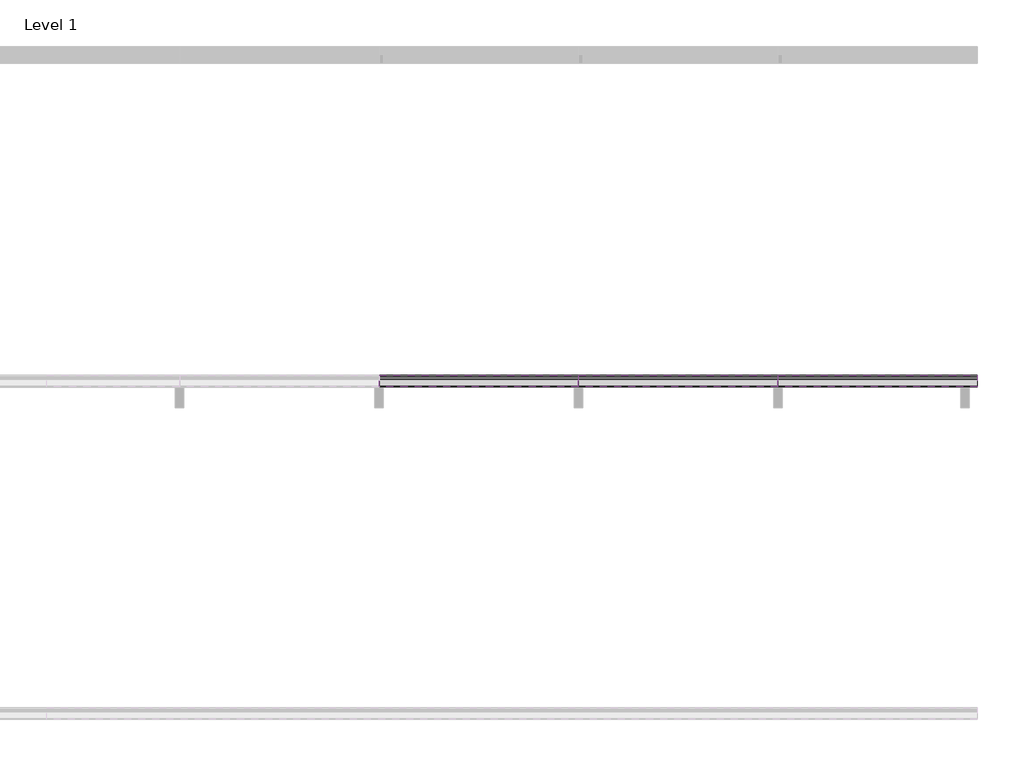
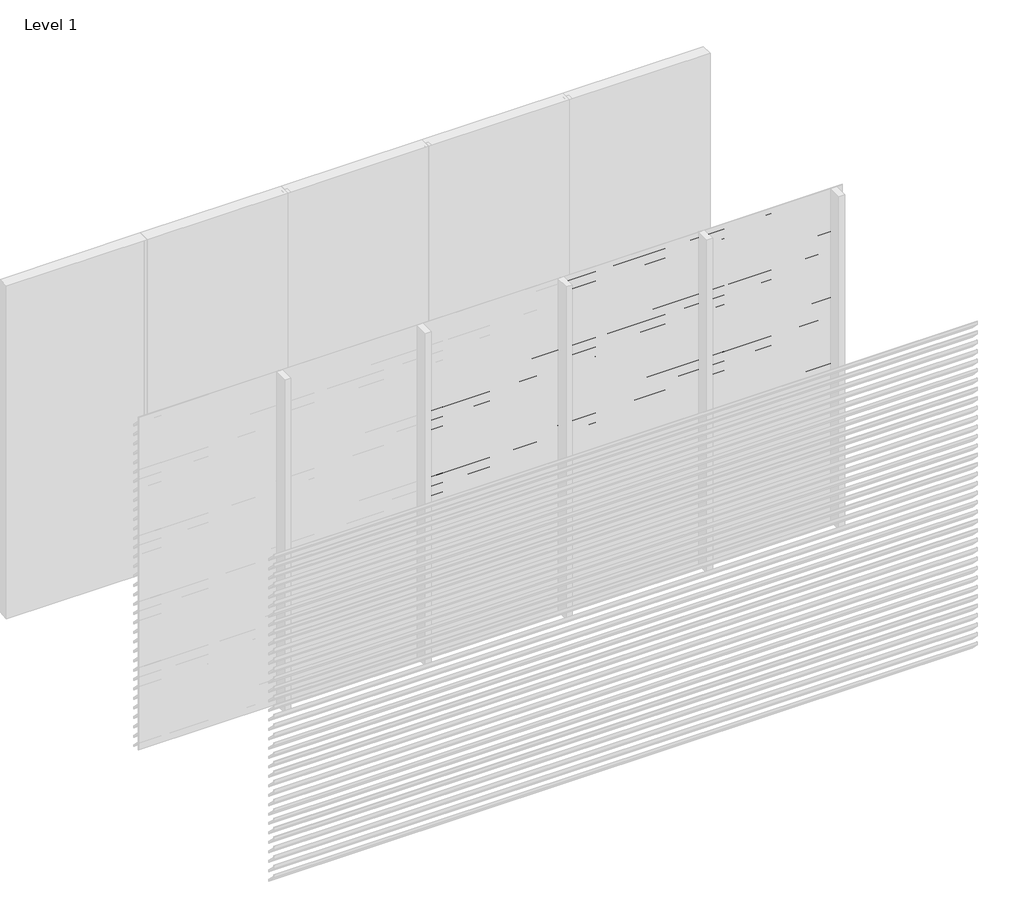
# One storey, part 3 of 10: 89 proxies.
"""IFC4 building model written with IfcOpenShell, lengths in millimetres."""

from ifc_helpers import new_model, si_unit, frame, origin, place, context, project, spatial, polyline, outline, extrude, element, save

model = new_model("IFC4")

# Units and contexts
model_context = context("Model", 3, world=origin())
ifc_project = project(units=[si_unit("LENGTHUNIT", "METRE", prefix="MILLI")], contexts=[model_context])

# Site, building, storey
site = spatial("IfcSite", under=ifc_project)
building = spatial("IfcBuilding", under=site)
storey = spatial("IfcBuildingStorey", under=building, Name="Level 1", Elevation=0.0)

# Proxies
placement = place(None, origin())
element("IfcBuildingElementProxy", 1, Name="Wall Sweeps", at=placement, inside=storey, context=model_context, shape_type="SweptSolid", body=[
    extrude(outline(polyline([(-17995.0, 2975.0), (-17995.0, 2962.0), (-17927.0, 2894.0), (-17927.0, 2876.0), (-17997.0, 2946.0), (-17997.0, 2975.0), (-17995.0, 2975.0)])), frame((4799.9999998, 0.0, 0.0), z_axis=(1.0, 0.0, 0.0), x_axis=(0.0, 1.0, 0.0)), (0.0, 0.0, 1.0), 1200.0000002),
])
element("IfcBuildingElementProxy", 2, Name="Wall Sweeps", at=placement, inside=storey, context=model_context, shape_type="SweptSolid", body=[
    extrude(outline(polyline([(-17995.0, 2890.0), (-17995.0, 2877.0), (-17927.0, 2809.0), (-17927.0, 2791.0), (-17997.0, 2861.0), (-17997.0, 2890.0), (-17995.0, 2890.0)])), frame((4799.9999998, 0.0, 0.0), z_axis=(1.0, 0.0, 0.0), x_axis=(0.0, 1.0, 0.0)), (0.0, 0.0, 1.0), 1200.0000002),
])
element("IfcBuildingElementProxy", 3, Name="Wall Sweeps", at=placement, inside=storey, context=model_context, shape_type="SweptSolid", body=[
    extrude(outline(polyline([(-17995.0, 2805.0), (-17995.0, 2792.0), (-17927.0, 2724.0), (-17927.0, 2706.0), (-17997.0, 2776.0), (-17997.0, 2805.0), (-17995.0, 2805.0)])), frame((4799.9999998, 0.0, 0.0), z_axis=(1.0, 0.0, 0.0), x_axis=(0.0, 1.0, 0.0)), (0.0, 0.0, 1.0), 1200.0000002),
])
element("IfcBuildingElementProxy", 4, Name="Wall Sweeps", at=placement, inside=storey, context=model_context, shape_type="SweptSolid", body=[
    extrude(outline(polyline([(-17995.0, 2720.0), (-17995.0, 2707.0), (-17927.0, 2639.0), (-17927.0, 2621.0), (-17997.0, 2691.0), (-17997.0, 2720.0), (-17995.0, 2720.0)])), frame((4799.9999998, 0.0, 0.0), z_axis=(1.0, 0.0, 0.0), x_axis=(0.0, 1.0, 0.0)), (0.0, 0.0, 1.0), 1200.0000002),
])
element("IfcBuildingElementProxy", 5, Name="Wall Sweeps", at=placement, inside=storey, context=model_context, shape_type="SweptSolid", body=[
    extrude(outline(polyline([(-17995.0, 2635.0), (-17995.0, 2622.0), (-17927.0, 2554.0), (-17927.0, 2536.0), (-17997.0, 2606.0), (-17997.0, 2635.0), (-17995.0, 2635.0)])), frame((4799.9999998, 0.0, 0.0), z_axis=(1.0, 0.0, 0.0), x_axis=(0.0, 1.0, 0.0)), (0.0, 0.0, 1.0), 1200.0000002),
])
element("IfcBuildingElementProxy", 6, Name="Wall Sweeps", at=placement, inside=storey, context=model_context, shape_type="SweptSolid", body=[
    extrude(outline(polyline([(-17995.0, 2550.0), (-17995.0, 2537.0), (-17927.0, 2469.0), (-17927.0, 2451.0), (-17997.0, 2521.0), (-17997.0, 2550.0), (-17995.0, 2550.0)])), frame((4799.9999998, 0.0, 0.0), z_axis=(1.0, 0.0, 0.0), x_axis=(0.0, 1.0, 0.0)), (0.0, 0.0, 1.0), 1200.0000002),
])
element("IfcBuildingElementProxy", 7, Name="Wall Sweeps", at=placement, inside=storey, context=model_context, shape_type="SweptSolid", body=[
    extrude(outline(polyline([(-17995.0, 2465.0), (-17995.0, 2452.0), (-17927.0, 2384.0), (-17927.0, 2366.0), (-17997.0, 2436.0), (-17997.0, 2465.0), (-17995.0, 2465.0)])), frame((4799.9999998, 0.0, 0.0), z_axis=(1.0, 0.0, 0.0), x_axis=(0.0, 1.0, 0.0)), (0.0, 0.0, 1.0), 1200.0000002),
])
element("IfcBuildingElementProxy", 8, Name="Wall Sweeps", at=placement, inside=storey, context=model_context, shape_type="SweptSolid", body=[
    extrude(outline(polyline([(-17995.0, 2380.0), (-17995.0, 2367.0), (-17927.0, 2299.0), (-17927.0, 2281.0), (-17997.0, 2351.0), (-17997.0, 2380.0), (-17995.0, 2380.0)])), frame((4799.9999998, 0.0, 0.0), z_axis=(1.0, 0.0, 0.0), x_axis=(0.0, 1.0, 0.0)), (0.0, 0.0, 1.0), 1200.0000002),
])
element("IfcBuildingElementProxy", 9, Name="Wall Sweeps", at=placement, inside=storey, context=model_context, shape_type="SweptSolid", body=[
    extrude(outline(polyline([(-17995.0, 2295.0), (-17995.0, 2282.0), (-17927.0, 2214.0), (-17927.0, 2196.0), (-17997.0, 2266.0), (-17997.0, 2295.0), (-17995.0, 2295.0)])), frame((4799.9999998, 0.0, 0.0), z_axis=(1.0, 0.0, 0.0), x_axis=(0.0, 1.0, 0.0)), (0.0, 0.0, 1.0), 1200.0000002),
])
element("IfcBuildingElementProxy", 10, Name="Wall Sweeps", at=placement, inside=storey, context=model_context, shape_type="SweptSolid", body=[
    extrude(outline(polyline([(-17995.0, 2210.0), (-17995.0, 2197.0), (-17927.0, 2129.0), (-17927.0, 2111.0), (-17997.0, 2181.0), (-17997.0, 2210.0), (-17995.0, 2210.0)])), frame((4799.9999998, 0.0, 0.0), z_axis=(1.0, 0.0, 0.0), x_axis=(0.0, 1.0, 0.0)), (0.0, 0.0, 1.0), 1200.0000002),
])
element("IfcBuildingElementProxy", 11, Name="Wall Sweeps", at=placement, inside=storey, context=model_context, shape_type="SweptSolid", body=[
    extrude(outline(polyline([(-17995.0, 2125.0), (-17995.0, 2112.0), (-17927.0, 2044.0), (-17927.0, 2026.0), (-17997.0, 2096.0), (-17997.0, 2125.0), (-17995.0, 2125.0)])), frame((4799.9999998, 0.0, 0.0), z_axis=(1.0, 0.0, 0.0), x_axis=(0.0, 1.0, 0.0)), (0.0, 0.0, 1.0), 1200.0000002),
])
element("IfcBuildingElementProxy", 12, Name="Wall Sweeps", at=placement, inside=storey, context=model_context, shape_type="SweptSolid", body=[
    extrude(outline(polyline([(-17995.0, 2040.0), (-17995.0, 2027.0), (-17927.0, 1959.0), (-17927.0, 1941.0), (-17997.0, 2011.0), (-17997.0, 2040.0), (-17995.0, 2040.0)])), frame((4799.9999998, 0.0, 0.0), z_axis=(1.0, 0.0, 0.0), x_axis=(0.0, 1.0, 0.0)), (0.0, 0.0, 1.0), 1200.0000002),
])
element("IfcBuildingElementProxy", 13, Name="Wall Sweeps", at=placement, inside=storey, context=model_context, shape_type="SweptSolid", body=[
    extrude(outline(polyline([(-17995.0, 1955.0), (-17995.0, 1942.0), (-17927.0, 1874.0), (-17927.0, 1856.0), (-17997.0, 1926.0), (-17997.0, 1955.0), (-17995.0, 1955.0)])), frame((4799.9999998, 0.0, 0.0), z_axis=(1.0, 0.0, 0.0), x_axis=(0.0, 1.0, 0.0)), (0.0, 0.0, 1.0), 1200.0000002),
])
element("IfcBuildingElementProxy", 14, Name="Wall Sweeps", at=placement, inside=storey, context=model_context, shape_type="SweptSolid", body=[
    extrude(outline(polyline([(-17995.0, 1870.0), (-17995.0, 1857.0), (-17927.0, 1789.0), (-17927.0, 1771.0), (-17997.0, 1841.0), (-17997.0, 1870.0), (-17995.0, 1870.0)])), frame((4799.9999998, 0.0, 0.0), z_axis=(1.0, 0.0, 0.0), x_axis=(0.0, 1.0, 0.0)), (0.0, 0.0, 1.0), 1200.0000002),
])
element("IfcBuildingElementProxy", 15, Name="Wall Sweeps", at=placement, inside=storey, context=model_context, shape_type="SweptSolid", body=[
    extrude(outline(polyline([(-17995.0, 1785.0), (-17995.0, 1772.0), (-17927.0, 1704.0), (-17927.0, 1686.0), (-17997.0, 1756.0), (-17997.0, 1785.0), (-17995.0, 1785.0)])), frame((4799.9999998, 0.0, 0.0), z_axis=(1.0, 0.0, 0.0), x_axis=(0.0, 1.0, 0.0)), (0.0, 0.0, 1.0), 1200.0000002),
])
element("IfcBuildingElementProxy", 16, Name="Wall Sweeps", at=placement, inside=storey, context=model_context, shape_type="SweptSolid", body=[
    extrude(outline(polyline([(-17995.0, 1700.0), (-17995.0, 1687.0), (-17927.0, 1619.0), (-17927.0, 1601.0), (-17997.0, 1671.0), (-17997.0, 1700.0), (-17995.0, 1700.0)])), frame((4799.9999998, 0.0, 0.0), z_axis=(1.0, 0.0, 0.0), x_axis=(0.0, 1.0, 0.0)), (0.0, 0.0, 1.0), 1200.0000002),
])
element("IfcBuildingElementProxy", 17, Name="Wall Sweeps", at=placement, inside=storey, context=model_context, shape_type="SweptSolid", body=[
    extrude(outline(polyline([(-17995.0, 1615.0), (-17995.0, 1602.0), (-17927.0, 1534.0), (-17927.0, 1516.0), (-17997.0, 1586.0), (-17997.0, 1615.0), (-17995.0, 1615.0)])), frame((4799.9999998, 0.0, 0.0), z_axis=(1.0, 0.0, 0.0), x_axis=(0.0, 1.0, 0.0)), (0.0, 0.0, 1.0), 1200.0000002),
])
element("IfcBuildingElementProxy", 18, Name="Wall Sweeps", at=placement, inside=storey, context=model_context, shape_type="SweptSolid", body=[
    extrude(outline(polyline([(-17995.0, 1530.0), (-17995.0, 1517.0), (-17927.0, 1449.0), (-17927.0, 1431.0), (-17997.0, 1501.0), (-17997.0, 1530.0), (-17995.0, 1530.0)])), frame((4799.9999998, 0.0, 0.0), z_axis=(1.0, 0.0, 0.0), x_axis=(0.0, 1.0, 0.0)), (0.0, 0.0, 1.0), 1200.0000002),
])
element("IfcBuildingElementProxy", 19, Name="Wall Sweeps", at=placement, inside=storey, context=model_context, shape_type="SweptSolid", body=[
    extrude(outline(polyline([(-17995.0, 1445.0), (-17995.0, 1432.0), (-17927.0, 1364.0), (-17927.0, 1346.0), (-17997.0, 1416.0), (-17997.0, 1445.0), (-17995.0, 1445.0)])), frame((4799.9999998, 0.0, 0.0), z_axis=(1.0, 0.0, 0.0), x_axis=(0.0, 1.0, 0.0)), (0.0, 0.0, 1.0), 1200.0000002),
])
element("IfcBuildingElementProxy", 20, Name="Wall Sweeps", at=placement, inside=storey, context=model_context, shape_type="SweptSolid", body=[
    extrude(outline(polyline([(-17995.0, 1360.0), (-17995.0, 1347.0), (-17927.0, 1279.0), (-17927.0, 1261.0), (-17997.0, 1331.0), (-17997.0, 1360.0), (-17995.0, 1360.0)])), frame((4799.9999998, 0.0, 0.0), z_axis=(1.0, 0.0, 0.0), x_axis=(0.0, 1.0, 0.0)), (0.0, 0.0, 1.0), 1200.0000002),
])
element("IfcBuildingElementProxy", 21, Name="Wall Sweeps", at=placement, inside=storey, context=model_context, shape_type="SweptSolid", body=[
    extrude(outline(polyline([(-17995.0, 1275.0), (-17995.0, 1262.0), (-17927.0, 1194.0), (-17927.0, 1176.0), (-17997.0, 1246.0), (-17997.0, 1275.0), (-17995.0, 1275.0)])), frame((4799.9999998, 0.0, 0.0), z_axis=(1.0, 0.0, 0.0), x_axis=(0.0, 1.0, 0.0)), (0.0, 0.0, 1.0), 1200.0000002),
])
element("IfcBuildingElementProxy", 22, Name="Wall Sweeps", at=placement, inside=storey, context=model_context, shape_type="SweptSolid", body=[
    extrude(outline(polyline([(-17995.0, 1190.0), (-17995.0, 1177.0), (-17927.0, 1109.0), (-17927.0, 1091.0), (-17997.0, 1161.0), (-17997.0, 1190.0), (-17995.0, 1190.0)])), frame((4799.9999998, 0.0, 0.0), z_axis=(1.0, 0.0, 0.0), x_axis=(0.0, 1.0, 0.0)), (0.0, 0.0, 1.0), 1200.0000002),
])
element("IfcBuildingElementProxy", 23, Name="Wall Sweeps", at=placement, inside=storey, context=model_context, shape_type="SweptSolid", body=[
    extrude(outline(polyline([(-17995.0, 1105.0), (-17995.0, 1092.0), (-17927.0, 1024.0), (-17927.0, 1006.0), (-17997.0, 1076.0), (-17997.0, 1105.0), (-17995.0, 1105.0)])), frame((4799.9999998, 0.0, 0.0), z_axis=(1.0, 0.0, 0.0), x_axis=(0.0, 1.0, 0.0)), (0.0, 0.0, 1.0), 1200.0000002),
])
element("IfcBuildingElementProxy", 24, Name="Wall Sweeps", at=placement, inside=storey, context=model_context, shape_type="SweptSolid", body=[
    extrude(outline(polyline([(-17995.0, 1020.0), (-17995.0, 1007.0), (-17927.0, 939.0), (-17927.0, 921.0), (-17997.0, 991.0), (-17997.0, 1020.0), (-17995.0, 1020.0)])), frame((4799.9999998, 0.0, 0.0), z_axis=(1.0, 0.0, 0.0), x_axis=(0.0, 1.0, 0.0)), (0.0, 0.0, 1.0), 1200.0000002),
])
element("IfcBuildingElementProxy", 25, Name="Wall Sweeps", at=placement, inside=storey, context=model_context, shape_type="SweptSolid", body=[
    extrude(outline(polyline([(-17995.0, 935.0), (-17995.0, 922.0), (-17927.0, 854.0), (-17927.0, 836.0), (-17997.0, 906.0), (-17997.0, 935.0), (-17995.0, 935.0)])), frame((4799.9999998, 0.0, 0.0), z_axis=(1.0, 0.0, 0.0), x_axis=(0.0, 1.0, 0.0)), (0.0, 0.0, 1.0), 1200.0000002),
])
element("IfcBuildingElementProxy", 26, Name="Wall Sweeps", at=placement, inside=storey, context=model_context, shape_type="SweptSolid", body=[
    extrude(outline(polyline([(-17995.0, 2975.0), (-17995.0, 2962.0), (-17927.0, 2894.0), (-17927.0, 2876.0), (-17997.0, 2946.0), (-17997.0, 2975.0), (-17995.0, 2975.0)])), frame((3599.9999999, 0.0, 0.0), z_axis=(1.0, 0.0, 0.0), x_axis=(0.0, 1.0, 0.0)), (0.0, 0.0, 1.0), 1199.9999999),
])
element("IfcBuildingElementProxy", 27, Name="Wall Sweeps", at=placement, inside=storey, context=model_context, shape_type="SweptSolid", body=[
    extrude(outline(polyline([(-17995.0, 2890.0), (-17995.0, 2877.0), (-17927.0, 2809.0), (-17927.0, 2791.0), (-17997.0, 2861.0), (-17997.0, 2890.0), (-17995.0, 2890.0)])), frame((3599.9999999, 0.0, 0.0), z_axis=(1.0, 0.0, 0.0), x_axis=(0.0, 1.0, 0.0)), (0.0, 0.0, 1.0), 1199.9999999),
])
element("IfcBuildingElementProxy", 28, Name="Wall Sweeps", at=placement, inside=storey, context=model_context, shape_type="SweptSolid", body=[
    extrude(outline(polyline([(-17995.0, 2805.0), (-17995.0, 2792.0), (-17927.0, 2724.0), (-17927.0, 2706.0), (-17997.0, 2776.0), (-17997.0, 2805.0), (-17995.0, 2805.0)])), frame((3599.9999999, 0.0, 0.0), z_axis=(1.0, 0.0, 0.0), x_axis=(0.0, 1.0, 0.0)), (0.0, 0.0, 1.0), 1199.9999999),
])
element("IfcBuildingElementProxy", 29, Name="Wall Sweeps", at=placement, inside=storey, context=model_context, shape_type="SweptSolid", body=[
    extrude(outline(polyline([(-17995.0, 2720.0), (-17995.0, 2707.0), (-17927.0, 2639.0), (-17927.0, 2621.0), (-17997.0, 2691.0), (-17997.0, 2720.0), (-17995.0, 2720.0)])), frame((3599.9999999, 0.0, 0.0), z_axis=(1.0, 0.0, 0.0), x_axis=(0.0, 1.0, 0.0)), (0.0, 0.0, 1.0), 1199.9999999),
])
element("IfcBuildingElementProxy", 30, Name="Wall Sweeps", at=placement, inside=storey, context=model_context, shape_type="SweptSolid", body=[
    extrude(outline(polyline([(-17995.0, 2635.0), (-17995.0, 2622.0), (-17927.0, 2554.0), (-17927.0, 2536.0), (-17997.0, 2606.0), (-17997.0, 2635.0), (-17995.0, 2635.0)])), frame((3599.9999999, 0.0, 0.0), z_axis=(1.0, 0.0, 0.0), x_axis=(0.0, 1.0, 0.0)), (0.0, 0.0, 1.0), 1199.9999999),
])
element("IfcBuildingElementProxy", 31, Name="Wall Sweeps", at=placement, inside=storey, context=model_context, shape_type="SweptSolid", body=[
    extrude(outline(polyline([(-17995.0, 2550.0), (-17995.0, 2537.0), (-17927.0, 2469.0), (-17927.0, 2451.0), (-17997.0, 2521.0), (-17997.0, 2550.0), (-17995.0, 2550.0)])), frame((3599.9999999, 0.0, 0.0), z_axis=(1.0, 0.0, 0.0), x_axis=(0.0, 1.0, 0.0)), (0.0, 0.0, 1.0), 1199.9999999),
])
element("IfcBuildingElementProxy", 32, Name="Wall Sweeps", at=placement, inside=storey, context=model_context, shape_type="SweptSolid", body=[
    extrude(outline(polyline([(-17995.0, 2465.0), (-17995.0, 2452.0), (-17927.0, 2384.0), (-17927.0, 2366.0), (-17997.0, 2436.0), (-17997.0, 2465.0), (-17995.0, 2465.0)])), frame((3599.9999999, 0.0, 0.0), z_axis=(1.0, 0.0, 0.0), x_axis=(0.0, 1.0, 0.0)), (0.0, 0.0, 1.0), 1199.9999999),
])
element("IfcBuildingElementProxy", 33, Name="Wall Sweeps", at=placement, inside=storey, context=model_context, shape_type="SweptSolid", body=[
    extrude(outline(polyline([(-17995.0, 2380.0), (-17995.0, 2367.0), (-17927.0, 2299.0), (-17927.0, 2281.0), (-17997.0, 2351.0), (-17997.0, 2380.0), (-17995.0, 2380.0)])), frame((3599.9999999, 0.0, 0.0), z_axis=(1.0, 0.0, 0.0), x_axis=(0.0, 1.0, 0.0)), (0.0, 0.0, 1.0), 1199.9999999),
])
element("IfcBuildingElementProxy", 34, Name="Wall Sweeps", at=placement, inside=storey, context=model_context, shape_type="SweptSolid", body=[
    extrude(outline(polyline([(-17995.0, 2295.0), (-17995.0, 2282.0), (-17927.0, 2214.0), (-17927.0, 2196.0), (-17997.0, 2266.0), (-17997.0, 2295.0), (-17995.0, 2295.0)])), frame((3599.9999999, 0.0, 0.0), z_axis=(1.0, 0.0, 0.0), x_axis=(0.0, 1.0, 0.0)), (0.0, 0.0, 1.0), 1199.9999999),
])
element("IfcBuildingElementProxy", 35, Name="Wall Sweeps", at=placement, inside=storey, context=model_context, shape_type="SweptSolid", body=[
    extrude(outline(polyline([(-17995.0, 2210.0), (-17995.0, 2197.0), (-17927.0, 2129.0), (-17927.0, 2111.0), (-17997.0, 2181.0), (-17997.0, 2210.0), (-17995.0, 2210.0)])), frame((3599.9999999, 0.0, 0.0), z_axis=(1.0, 0.0, 0.0), x_axis=(0.0, 1.0, 0.0)), (0.0, 0.0, 1.0), 1199.9999999),
])
element("IfcBuildingElementProxy", 36, Name="Wall Sweeps", at=placement, inside=storey, context=model_context, shape_type="SweptSolid", body=[
    extrude(outline(polyline([(-17995.0, 2125.0), (-17995.0, 2112.0), (-17927.0, 2044.0), (-17927.0, 2026.0), (-17997.0, 2096.0), (-17997.0, 2125.0), (-17995.0, 2125.0)])), frame((3599.9999999, 0.0, 0.0), z_axis=(1.0, 0.0, 0.0), x_axis=(0.0, 1.0, 0.0)), (0.0, 0.0, 1.0), 1199.9999999),
])
element("IfcBuildingElementProxy", 37, Name="Wall Sweeps", at=placement, inside=storey, context=model_context, shape_type="SweptSolid", body=[
    extrude(outline(polyline([(-17995.0, 2040.0), (-17995.0, 2027.0), (-17927.0, 1959.0), (-17927.0, 1941.0), (-17997.0, 2011.0), (-17997.0, 2040.0), (-17995.0, 2040.0)])), frame((3599.9999999, 0.0, 0.0), z_axis=(1.0, 0.0, 0.0), x_axis=(0.0, 1.0, 0.0)), (0.0, 0.0, 1.0), 1199.9999999),
])
element("IfcBuildingElementProxy", 38, Name="Wall Sweeps", at=placement, inside=storey, context=model_context, shape_type="SweptSolid", body=[
    extrude(outline(polyline([(-17995.0, 1955.0), (-17995.0, 1942.0), (-17927.0, 1874.0), (-17927.0, 1856.0), (-17997.0, 1926.0), (-17997.0, 1955.0), (-17995.0, 1955.0)])), frame((3599.9999999, 0.0, 0.0), z_axis=(1.0, 0.0, 0.0), x_axis=(0.0, 1.0, 0.0)), (0.0, 0.0, 1.0), 1199.9999999),
])
element("IfcBuildingElementProxy", 39, Name="Wall Sweeps", at=placement, inside=storey, context=model_context, shape_type="SweptSolid", body=[
    extrude(outline(polyline([(-17995.0, 1870.0), (-17995.0, 1857.0), (-17927.0, 1789.0), (-17927.0, 1771.0), (-17997.0, 1841.0), (-17997.0, 1870.0), (-17995.0, 1870.0)])), frame((3599.9999999, 0.0, 0.0), z_axis=(1.0, 0.0, 0.0), x_axis=(0.0, 1.0, 0.0)), (0.0, 0.0, 1.0), 1199.9999999),
])
element("IfcBuildingElementProxy", 40, Name="Wall Sweeps", at=placement, inside=storey, context=model_context, shape_type="SweptSolid", body=[
    extrude(outline(polyline([(-17995.0, 1785.0), (-17995.0, 1772.0), (-17927.0, 1704.0), (-17927.0, 1686.0), (-17997.0, 1756.0), (-17997.0, 1785.0), (-17995.0, 1785.0)])), frame((3599.9999999, 0.0, 0.0), z_axis=(1.0, 0.0, 0.0), x_axis=(0.0, 1.0, 0.0)), (0.0, 0.0, 1.0), 1199.9999999),
])
element("IfcBuildingElementProxy", 41, Name="Wall Sweeps", at=placement, inside=storey, context=model_context, shape_type="SweptSolid", body=[
    extrude(outline(polyline([(-17995.0, 1700.0), (-17995.0, 1687.0), (-17927.0, 1619.0), (-17927.0, 1601.0), (-17997.0, 1671.0), (-17997.0, 1700.0), (-17995.0, 1700.0)])), frame((3599.9999999, 0.0, 0.0), z_axis=(1.0, 0.0, 0.0), x_axis=(0.0, 1.0, 0.0)), (0.0, 0.0, 1.0), 1199.9999999),
])
element("IfcBuildingElementProxy", 42, Name="Wall Sweeps", at=placement, inside=storey, context=model_context, shape_type="SweptSolid", body=[
    extrude(outline(polyline([(-17995.0, 1615.0), (-17995.0, 1602.0), (-17927.0, 1534.0), (-17927.0, 1516.0), (-17997.0, 1586.0), (-17997.0, 1615.0), (-17995.0, 1615.0)])), frame((3599.9999999, 0.0, 0.0), z_axis=(1.0, 0.0, 0.0), x_axis=(0.0, 1.0, 0.0)), (0.0, 0.0, 1.0), 1199.9999999),
])
element("IfcBuildingElementProxy", 43, Name="Wall Sweeps", at=placement, inside=storey, context=model_context, shape_type="SweptSolid", body=[
    extrude(outline(polyline([(-17995.0, 1530.0), (-17995.0, 1517.0), (-17927.0, 1449.0), (-17927.0, 1431.0), (-17997.0, 1501.0), (-17997.0, 1530.0), (-17995.0, 1530.0)])), frame((3599.9999999, 0.0, 0.0), z_axis=(1.0, 0.0, 0.0), x_axis=(0.0, 1.0, 0.0)), (0.0, 0.0, 1.0), 1199.9999999),
])
element("IfcBuildingElementProxy", 44, Name="Wall Sweeps", at=placement, inside=storey, context=model_context, shape_type="SweptSolid", body=[
    extrude(outline(polyline([(-17995.0, 1445.0), (-17995.0, 1432.0), (-17927.0, 1364.0), (-17927.0, 1346.0), (-17997.0, 1416.0), (-17997.0, 1445.0), (-17995.0, 1445.0)])), frame((3599.9999999, 0.0, 0.0), z_axis=(1.0, 0.0, 0.0), x_axis=(0.0, 1.0, 0.0)), (0.0, 0.0, 1.0), 1199.9999999),
])
element("IfcBuildingElementProxy", 45, Name="Wall Sweeps", at=placement, inside=storey, context=model_context, shape_type="SweptSolid", body=[
    extrude(outline(polyline([(-17995.0, 1360.0), (-17995.0, 1347.0), (-17927.0, 1279.0), (-17927.0, 1261.0), (-17997.0, 1331.0), (-17997.0, 1360.0), (-17995.0, 1360.0)])), frame((3599.9999999, 0.0, 0.0), z_axis=(1.0, 0.0, 0.0), x_axis=(0.0, 1.0, 0.0)), (0.0, 0.0, 1.0), 1199.9999999),
])
element("IfcBuildingElementProxy", 46, Name="Wall Sweeps", at=placement, inside=storey, context=model_context, shape_type="SweptSolid", body=[
    extrude(outline(polyline([(-17995.0, 1275.0), (-17995.0, 1262.0), (-17927.0, 1194.0), (-17927.0, 1176.0), (-17997.0, 1246.0), (-17997.0, 1275.0), (-17995.0, 1275.0)])), frame((3599.9999999, 0.0, 0.0), z_axis=(1.0, 0.0, 0.0), x_axis=(0.0, 1.0, 0.0)), (0.0, 0.0, 1.0), 1199.9999999),
])
element("IfcBuildingElementProxy", 47, Name="Wall Sweeps", at=placement, inside=storey, context=model_context, shape_type="SweptSolid", body=[
    extrude(outline(polyline([(-17995.0, 1190.0), (-17995.0, 1177.0), (-17927.0, 1109.0), (-17927.0, 1091.0), (-17997.0, 1161.0), (-17997.0, 1190.0), (-17995.0, 1190.0)])), frame((3599.9999999, 0.0, 0.0), z_axis=(1.0, 0.0, 0.0), x_axis=(0.0, 1.0, 0.0)), (0.0, 0.0, 1.0), 1199.9999999),
])
element("IfcBuildingElementProxy", 48, Name="Wall Sweeps", at=placement, inside=storey, context=model_context, shape_type="SweptSolid", body=[
    extrude(outline(polyline([(-17995.0, 1105.0), (-17995.0, 1092.0), (-17927.0, 1024.0), (-17927.0, 1006.0), (-17997.0, 1076.0), (-17997.0, 1105.0), (-17995.0, 1105.0)])), frame((3599.9999999, 0.0, 0.0), z_axis=(1.0, 0.0, 0.0), x_axis=(0.0, 1.0, 0.0)), (0.0, 0.0, 1.0), 1199.9999999),
])
element("IfcBuildingElementProxy", 49, Name="Wall Sweeps", at=placement, inside=storey, context=model_context, shape_type="SweptSolid", body=[
    extrude(outline(polyline([(-17995.0, 1020.0), (-17995.0, 1007.0), (-17927.0, 939.0), (-17927.0, 921.0), (-17997.0, 991.0), (-17997.0, 1020.0), (-17995.0, 1020.0)])), frame((3599.9999999, 0.0, 0.0), z_axis=(1.0, 0.0, 0.0), x_axis=(0.0, 1.0, 0.0)), (0.0, 0.0, 1.0), 1199.9999999),
])
element("IfcBuildingElementProxy", 50, Name="Wall Sweeps", at=placement, inside=storey, context=model_context, shape_type="SweptSolid", body=[
    extrude(outline(polyline([(-17995.0, 935.0), (-17995.0, 922.0), (-17927.0, 854.0), (-17927.0, 836.0), (-17997.0, 906.0), (-17997.0, 935.0), (-17995.0, 935.0)])), frame((3599.9999999, 0.0, 0.0), z_axis=(1.0, 0.0, 0.0), x_axis=(0.0, 1.0, 0.0)), (0.0, 0.0, 1.0), 1199.9999999),
])
element("IfcBuildingElementProxy", 51, Name="Wall Sweeps", at=placement, inside=storey, context=model_context, shape_type="SweptSolid", body=[
    extrude(outline(polyline([(-17995.0, 850.0), (-17995.0, 837.0), (-17927.0, 769.0), (-17927.0, 751.0), (-17997.0, 821.0), (-17997.0, 850.0), (-17995.0, 850.0)])), frame((3599.9999999, 0.0, 0.0), z_axis=(1.0, 0.0, 0.0), x_axis=(0.0, 1.0, 0.0)), (0.0, 0.0, 1.0), 1199.9999999),
])
element("IfcBuildingElementProxy", 52, Name="Wall Sweeps", at=placement, inside=storey, context=model_context, shape_type="SweptSolid", body=[
    extrude(outline(polyline([(-17995.0, 765.0), (-17995.0, 752.0), (-17927.0, 684.0), (-17927.0, 666.0), (-17997.0, 736.0), (-17997.0, 765.0), (-17995.0, 765.0)])), frame((3599.9999999, 0.0, 0.0), z_axis=(1.0, 0.0, 0.0), x_axis=(0.0, 1.0, 0.0)), (0.0, 0.0, 1.0), 1199.9999999),
])
element("IfcBuildingElementProxy", 53, Name="Wall Sweeps", at=placement, inside=storey, context=model_context, shape_type="SweptSolid", body=[
    extrude(outline(polyline([(-17995.0, 680.0), (-17995.0, 667.0), (-17927.0, 599.0), (-17927.0, 581.0), (-17997.0, 651.0), (-17997.0, 680.0), (-17995.0, 680.0)])), frame((3599.9999999, 0.0, 0.0), z_axis=(1.0, 0.0, 0.0), x_axis=(0.0, 1.0, 0.0)), (0.0, 0.0, 1.0), 1199.9999999),
])
element("IfcBuildingElementProxy", 54, Name="Wall Sweeps", at=placement, inside=storey, context=model_context, shape_type="SweptSolid", body=[
    extrude(outline(polyline([(-17995.0, 595.0), (-17995.0, 582.0), (-17927.0, 514.0), (-17927.0, 496.0), (-17997.0, 566.0), (-17997.0, 595.0), (-17995.0, 595.0)])), frame((3599.9999999, 0.0, 0.0), z_axis=(1.0, 0.0, 0.0), x_axis=(0.0, 1.0, 0.0)), (0.0, 0.0, 1.0), 1199.9999999),
])
element("IfcBuildingElementProxy", 55, Name="Wall Sweeps", at=placement, inside=storey, context=model_context, shape_type="SweptSolid", body=[
    extrude(outline(polyline([(-17995.0, 510.0), (-17995.0, 497.0), (-17927.0, 429.0), (-17927.0, 411.0), (-17997.0, 481.0), (-17997.0, 510.0), (-17995.0, 510.0)])), frame((3599.9999999, 0.0, 0.0), z_axis=(1.0, 0.0, 0.0), x_axis=(0.0, 1.0, 0.0)), (0.0, 0.0, 1.0), 1199.9999999),
])
element("IfcBuildingElementProxy", 56, Name="Wall Sweeps", at=placement, inside=storey, context=model_context, shape_type="SweptSolid", body=[
    extrude(outline(polyline([(-17995.0, 425.0), (-17995.0, 412.0), (-17927.0, 344.0), (-17927.0, 326.0), (-17997.0, 396.0), (-17997.0, 425.0), (-17995.0, 425.0)])), frame((3599.9999999, 0.0, 0.0), z_axis=(1.0, 0.0, 0.0), x_axis=(0.0, 1.0, 0.0)), (0.0, 0.0, 1.0), 1199.9999999),
])
element("IfcBuildingElementProxy", 57, Name="Wall Sweeps", at=placement, inside=storey, context=model_context, shape_type="SweptSolid", body=[
    extrude(outline(polyline([(-17995.0, 340.0), (-17995.0, 327.0), (-17927.0, 259.0), (-17927.0, 241.0), (-17997.0, 311.0), (-17997.0, 340.0), (-17995.0, 340.0)])), frame((3599.9999999, 0.0, 0.0), z_axis=(1.0, 0.0, 0.0), x_axis=(0.0, 1.0, 0.0)), (0.0, 0.0, 1.0), 1199.9999999),
])
element("IfcBuildingElementProxy", 58, Name="Wall Sweeps", at=placement, inside=storey, context=model_context, shape_type="SweptSolid", body=[
    extrude(outline(polyline([(-17995.0, 255.0), (-17995.0, 242.0), (-17927.0, 174.0), (-17927.0, 156.0), (-17997.0, 226.0), (-17997.0, 255.0), (-17995.0, 255.0)])), frame((3599.9999999, 0.0, 0.0), z_axis=(1.0, 0.0, 0.0), x_axis=(0.0, 1.0, 0.0)), (0.0, 0.0, 1.0), 1199.9999999),
])
element("IfcBuildingElementProxy", 59, Name="Wall Sweeps", at=placement, inside=storey, context=model_context, shape_type="SweptSolid", body=[
    extrude(outline(polyline([(-17995.0, 170.0), (-17995.0, 157.0), (-17927.0, 89.0), (-17927.0, 71.0), (-17997.0, 141.0), (-17997.0, 170.0), (-17995.0, 170.0)])), frame((3599.9999999, 0.0, 0.0), z_axis=(1.0, 0.0, 0.0), x_axis=(0.0, 1.0, 0.0)), (0.0, 0.0, 1.0), 1199.9999999),
])
element("IfcBuildingElementProxy", 60, Name="Wall Sweeps", at=placement, inside=storey, context=model_context, shape_type="SweptSolid", body=[
    extrude(outline(polyline([(-17995.0, 85.0), (-17995.0, 72.0), (-17927.0, 4.0), (-17927.0, -14.0), (-17997.0, 56.0), (-17997.0, 85.0), (-17995.0, 85.0)])), frame((3599.9999999, 0.0, 0.0), z_axis=(1.0, 0.0, 0.0), x_axis=(0.0, 1.0, 0.0)), (0.0, 0.0, 1.0), 1199.9999999),
])
element("IfcBuildingElementProxy", 61, Name="Wall Sweeps", at=placement, inside=storey, context=model_context, shape_type="SweptSolid", body=[
    extrude(outline(polyline([(-17995.0, 2465.0), (-17995.0, 2452.0), (-17927.0, 2384.0), (-17927.0, 2366.0), (-17997.0, 2436.0), (-17997.0, 2465.0), (-17995.0, 2465.0)])), frame((2400.0000001, 0.0, 0.0), z_axis=(1.0, 0.0, 0.0), x_axis=(0.0, 1.0, 0.0)), (0.0, 0.0, 1.0), 1199.9999999),
])
element("IfcBuildingElementProxy", 62, Name="Wall Sweeps", at=placement, inside=storey, context=model_context, shape_type="SweptSolid", body=[
    extrude(outline(polyline([(-17995.0, 2380.0), (-17995.0, 2367.0), (-17927.0, 2299.0), (-17927.0, 2281.0), (-17997.0, 2351.0), (-17997.0, 2380.0), (-17995.0, 2380.0)])), frame((2400.0000001, 0.0, 0.0), z_axis=(1.0, 0.0, 0.0), x_axis=(0.0, 1.0, 0.0)), (0.0, 0.0, 1.0), 1199.9999999),
])
element("IfcBuildingElementProxy", 63, Name="Wall Sweeps", at=placement, inside=storey, context=model_context, shape_type="SweptSolid", body=[
    extrude(outline(polyline([(-17995.0, 2295.0), (-17995.0, 2282.0), (-17927.0, 2214.0), (-17927.0, 2196.0), (-17997.0, 2266.0), (-17997.0, 2295.0), (-17995.0, 2295.0)])), frame((2400.0000001, 0.0, 0.0), z_axis=(1.0, 0.0, 0.0), x_axis=(0.0, 1.0, 0.0)), (0.0, 0.0, 1.0), 1199.9999999),
])
element("IfcBuildingElementProxy", 64, Name="Wall Sweeps", at=placement, inside=storey, context=model_context, shape_type="SweptSolid", body=[
    extrude(outline(polyline([(-17995.0, 2210.0), (-17995.0, 2197.0), (-17927.0, 2129.0), (-17927.0, 2111.0), (-17997.0, 2181.0), (-17997.0, 2210.0), (-17995.0, 2210.0)])), frame((2400.0000001, 0.0, 0.0), z_axis=(1.0, 0.0, 0.0), x_axis=(0.0, 1.0, 0.0)), (0.0, 0.0, 1.0), 1199.9999999),
])
element("IfcBuildingElementProxy", 65, Name="Wall Sweeps", at=placement, inside=storey, context=model_context, shape_type="SweptSolid", body=[
    extrude(outline(polyline([(-17995.0, 2125.0), (-17995.0, 2112.0), (-17927.0, 2044.0), (-17927.0, 2026.0), (-17997.0, 2096.0), (-17997.0, 2125.0), (-17995.0, 2125.0)])), frame((2400.0000001, 0.0, 0.0), z_axis=(1.0, 0.0, 0.0), x_axis=(0.0, 1.0, 0.0)), (0.0, 0.0, 1.0), 1199.9999999),
])
element("IfcBuildingElementProxy", 66, Name="Wall Sweeps", at=placement, inside=storey, context=model_context, shape_type="SweptSolid", body=[
    extrude(outline(polyline([(-17995.0, 2040.0), (-17995.0, 2027.0), (-17927.0, 1959.0), (-17927.0, 1941.0), (-17997.0, 2011.0), (-17997.0, 2040.0), (-17995.0, 2040.0)])), frame((2400.0000001, 0.0, 0.0), z_axis=(1.0, 0.0, 0.0), x_axis=(0.0, 1.0, 0.0)), (0.0, 0.0, 1.0), 1199.9999999),
])
element("IfcBuildingElementProxy", 67, Name="Wall Sweeps", at=placement, inside=storey, context=model_context, shape_type="SweptSolid", body=[
    extrude(outline(polyline([(-17995.0, 1955.0), (-17995.0, 1942.0), (-17927.0, 1874.0), (-17927.0, 1856.0), (-17997.0, 1926.0), (-17997.0, 1955.0), (-17995.0, 1955.0)])), frame((2400.0000001, 0.0, 0.0), z_axis=(1.0, 0.0, 0.0), x_axis=(0.0, 1.0, 0.0)), (0.0, 0.0, 1.0), 1199.9999999),
])
element("IfcBuildingElementProxy", 68, Name="Wall Sweeps", at=placement, inside=storey, context=model_context, shape_type="SweptSolid", body=[
    extrude(outline(polyline([(-17995.0, 1870.0), (-17995.0, 1857.0), (-17927.0, 1789.0), (-17927.0, 1771.0), (-17997.0, 1841.0), (-17997.0, 1870.0), (-17995.0, 1870.0)])), frame((2400.0000001, 0.0, 0.0), z_axis=(1.0, 0.0, 0.0), x_axis=(0.0, 1.0, 0.0)), (0.0, 0.0, 1.0), 1199.9999999),
])
element("IfcBuildingElementProxy", 69, Name="Wall Sweeps", at=placement, inside=storey, context=model_context, shape_type="SweptSolid", body=[
    extrude(outline(polyline([(-17995.0, 1785.0), (-17995.0, 1772.0), (-17927.0, 1704.0), (-17927.0, 1686.0), (-17997.0, 1756.0), (-17997.0, 1785.0), (-17995.0, 1785.0)])), frame((2400.0000001, 0.0, 0.0), z_axis=(1.0, 0.0, 0.0), x_axis=(0.0, 1.0, 0.0)), (0.0, 0.0, 1.0), 1199.9999999),
])
element("IfcBuildingElementProxy", 70, Name="Wall Sweeps", at=placement, inside=storey, context=model_context, shape_type="SweptSolid", body=[
    extrude(outline(polyline([(-17995.0, 1700.0), (-17995.0, 1687.0), (-17927.0, 1619.0), (-17927.0, 1601.0), (-17997.0, 1671.0), (-17997.0, 1700.0), (-17995.0, 1700.0)])), frame((2400.0000001, 0.0, 0.0), z_axis=(1.0, 0.0, 0.0), x_axis=(0.0, 1.0, 0.0)), (0.0, 0.0, 1.0), 1199.9999999),
])
element("IfcBuildingElementProxy", 71, Name="Wall Sweeps", at=placement, inside=storey, context=model_context, shape_type="SweptSolid", body=[
    extrude(outline(polyline([(-17995.0, 1615.0), (-17995.0, 1602.0), (-17927.0, 1534.0), (-17927.0, 1516.0), (-17997.0, 1586.0), (-17997.0, 1615.0), (-17995.0, 1615.0)])), frame((2400.0000001, 0.0, 0.0), z_axis=(1.0, 0.0, 0.0), x_axis=(0.0, 1.0, 0.0)), (0.0, 0.0, 1.0), 1199.9999999),
])
element("IfcBuildingElementProxy", 72, Name="Wall Sweeps", at=placement, inside=storey, context=model_context, shape_type="SweptSolid", body=[
    extrude(outline(polyline([(-17995.0, 1530.0), (-17995.0, 1517.0), (-17927.0, 1449.0), (-17927.0, 1431.0), (-17997.0, 1501.0), (-17997.0, 1530.0), (-17995.0, 1530.0)])), frame((2400.0000001, 0.0, 0.0), z_axis=(1.0, 0.0, 0.0), x_axis=(0.0, 1.0, 0.0)), (0.0, 0.0, 1.0), 1199.9999999),
])
element("IfcBuildingElementProxy", 73, Name="Wall Sweeps", at=placement, inside=storey, context=model_context, shape_type="SweptSolid", body=[
    extrude(outline(polyline([(-17995.0, 1445.0), (-17995.0, 1432.0), (-17927.0, 1364.0), (-17927.0, 1346.0), (-17997.0, 1416.0), (-17997.0, 1445.0), (-17995.0, 1445.0)])), frame((2400.0000001, 0.0, 0.0), z_axis=(1.0, 0.0, 0.0), x_axis=(0.0, 1.0, 0.0)), (0.0, 0.0, 1.0), 1199.9999999),
])
element("IfcBuildingElementProxy", 74, Name="Wall Sweeps", at=placement, inside=storey, context=model_context, shape_type="SweptSolid", body=[
    extrude(outline(polyline([(-17995.0, 1360.0), (-17995.0, 1347.0), (-17927.0, 1279.0), (-17927.0, 1261.0), (-17997.0, 1331.0), (-17997.0, 1360.0), (-17995.0, 1360.0)])), frame((2400.0000001, 0.0, 0.0), z_axis=(1.0, 0.0, 0.0), x_axis=(0.0, 1.0, 0.0)), (0.0, 0.0, 1.0), 1199.9999999),
])
element("IfcBuildingElementProxy", 75, Name="Wall Sweeps", at=placement, inside=storey, context=model_context, shape_type="SweptSolid", body=[
    extrude(outline(polyline([(-17995.0, 1275.0), (-17995.0, 1262.0), (-17927.0, 1194.0), (-17927.0, 1176.0), (-17997.0, 1246.0), (-17997.0, 1275.0), (-17995.0, 1275.0)])), frame((2400.0000001, 0.0, 0.0), z_axis=(1.0, 0.0, 0.0), x_axis=(0.0, 1.0, 0.0)), (0.0, 0.0, 1.0), 1199.9999999),
])
element("IfcBuildingElementProxy", 76, Name="Wall Sweeps", at=placement, inside=storey, context=model_context, shape_type="SweptSolid", body=[
    extrude(outline(polyline([(-17995.0, 1190.0), (-17995.0, 1177.0), (-17927.0, 1109.0), (-17927.0, 1091.0), (-17997.0, 1161.0), (-17997.0, 1190.0), (-17995.0, 1190.0)])), frame((2400.0000001, 0.0, 0.0), z_axis=(1.0, 0.0, 0.0), x_axis=(0.0, 1.0, 0.0)), (0.0, 0.0, 1.0), 1199.9999999),
])
element("IfcBuildingElementProxy", 77, Name="Wall Sweeps", at=placement, inside=storey, context=model_context, shape_type="SweptSolid", body=[
    extrude(outline(polyline([(-17995.0, 1105.0), (-17995.0, 1092.0), (-17927.0, 1024.0), (-17927.0, 1006.0), (-17997.0, 1076.0), (-17997.0, 1105.0), (-17995.0, 1105.0)])), frame((2400.0000001, 0.0, 0.0), z_axis=(1.0, 0.0, 0.0), x_axis=(0.0, 1.0, 0.0)), (0.0, 0.0, 1.0), 1199.9999999),
])
element("IfcBuildingElementProxy", 78, Name="Wall Sweeps", at=placement, inside=storey, context=model_context, shape_type="SweptSolid", body=[
    extrude(outline(polyline([(-17995.0, 1020.0), (-17995.0, 1007.0), (-17927.0, 939.0), (-17927.0, 921.0), (-17997.0, 991.0), (-17997.0, 1020.0), (-17995.0, 1020.0)])), frame((2400.0000001, 0.0, 0.0), z_axis=(1.0, 0.0, 0.0), x_axis=(0.0, 1.0, 0.0)), (0.0, 0.0, 1.0), 1199.9999999),
])
element("IfcBuildingElementProxy", 79, Name="Wall Sweeps", at=placement, inside=storey, context=model_context, shape_type="SweptSolid", body=[
    extrude(outline(polyline([(-17995.0, 935.0), (-17995.0, 922.0), (-17927.0, 854.0), (-17927.0, 836.0), (-17997.0, 906.0), (-17997.0, 935.0), (-17995.0, 935.0)])), frame((2400.0000001, 0.0, 0.0), z_axis=(1.0, 0.0, 0.0), x_axis=(0.0, 1.0, 0.0)), (0.0, 0.0, 1.0), 1199.9999999),
])
element("IfcBuildingElementProxy", 80, Name="Wall Sweeps", at=placement, inside=storey, context=model_context, shape_type="SweptSolid", body=[
    extrude(outline(polyline([(-17995.0, 850.0), (-17995.0, 837.0), (-17927.0, 769.0), (-17927.0, 751.0), (-17997.0, 821.0), (-17997.0, 850.0), (-17995.0, 850.0)])), frame((2400.0000001, 0.0, 0.0), z_axis=(1.0, 0.0, 0.0), x_axis=(0.0, 1.0, 0.0)), (0.0, 0.0, 1.0), 1199.9999999),
])
element("IfcBuildingElementProxy", 81, Name="Wall Sweeps", at=placement, inside=storey, context=model_context, shape_type="SweptSolid", body=[
    extrude(outline(polyline([(-17995.0, 765.0), (-17995.0, 752.0), (-17927.0, 684.0), (-17927.0, 666.0), (-17997.0, 736.0), (-17997.0, 765.0), (-17995.0, 765.0)])), frame((2400.0000001, 0.0, 0.0), z_axis=(1.0, 0.0, 0.0), x_axis=(0.0, 1.0, 0.0)), (0.0, 0.0, 1.0), 1199.9999999),
])
element("IfcBuildingElementProxy", 82, Name="Wall Sweeps", at=placement, inside=storey, context=model_context, shape_type="SweptSolid", body=[
    extrude(outline(polyline([(-17995.0, 680.0), (-17995.0, 667.0), (-17927.0, 599.0), (-17927.0, 581.0), (-17997.0, 651.0), (-17997.0, 680.0), (-17995.0, 680.0)])), frame((2400.0000001, 0.0, 0.0), z_axis=(1.0, 0.0, 0.0), x_axis=(0.0, 1.0, 0.0)), (0.0, 0.0, 1.0), 1199.9999999),
])
element("IfcBuildingElementProxy", 83, Name="Wall Sweeps", at=placement, inside=storey, context=model_context, shape_type="SweptSolid", body=[
    extrude(outline(polyline([(-17995.0, 595.0), (-17995.0, 582.0), (-17927.0, 514.0), (-17927.0, 496.0), (-17997.0, 566.0), (-17997.0, 595.0), (-17995.0, 595.0)])), frame((2400.0000001, 0.0, 0.0), z_axis=(1.0, 0.0, 0.0), x_axis=(0.0, 1.0, 0.0)), (0.0, 0.0, 1.0), 1199.9999999),
])
element("IfcBuildingElementProxy", 84, Name="Wall Sweeps", at=placement, inside=storey, context=model_context, shape_type="SweptSolid", body=[
    extrude(outline(polyline([(-17995.0, 510.0), (-17995.0, 497.0), (-17927.0, 429.0), (-17927.0, 411.0), (-17997.0, 481.0), (-17997.0, 510.0), (-17995.0, 510.0)])), frame((2400.0000001, 0.0, 0.0), z_axis=(1.0, 0.0, 0.0), x_axis=(0.0, 1.0, 0.0)), (0.0, 0.0, 1.0), 1199.9999999),
])
element("IfcBuildingElementProxy", 85, Name="Wall Sweeps", at=placement, inside=storey, context=model_context, shape_type="SweptSolid", body=[
    extrude(outline(polyline([(-17995.0, 425.0), (-17995.0, 412.0), (-17927.0, 344.0), (-17927.0, 326.0), (-17997.0, 396.0), (-17997.0, 425.0), (-17995.0, 425.0)])), frame((2400.0000001, 0.0, 0.0), z_axis=(1.0, 0.0, 0.0), x_axis=(0.0, 1.0, 0.0)), (0.0, 0.0, 1.0), 1199.9999999),
])
element("IfcBuildingElementProxy", 86, Name="Wall Sweeps", at=placement, inside=storey, context=model_context, shape_type="SweptSolid", body=[
    extrude(outline(polyline([(-17995.0, 340.0), (-17995.0, 327.0), (-17927.0, 259.0), (-17927.0, 241.0), (-17997.0, 311.0), (-17997.0, 340.0), (-17995.0, 340.0)])), frame((2400.0000001, 0.0, 0.0), z_axis=(1.0, 0.0, 0.0), x_axis=(0.0, 1.0, 0.0)), (0.0, 0.0, 1.0), 1199.9999999),
])
element("IfcBuildingElementProxy", 87, Name="Wall Sweeps", at=placement, inside=storey, context=model_context, shape_type="SweptSolid", body=[
    extrude(outline(polyline([(-17995.0, 255.0), (-17995.0, 242.0), (-17927.0, 174.0), (-17927.0, 156.0), (-17997.0, 226.0), (-17997.0, 255.0), (-17995.0, 255.0)])), frame((2400.0000001, 0.0, 0.0), z_axis=(1.0, 0.0, 0.0), x_axis=(0.0, 1.0, 0.0)), (0.0, 0.0, 1.0), 1199.9999999),
])
element("IfcBuildingElementProxy", 88, Name="Wall Sweeps", at=placement, inside=storey, context=model_context, shape_type="SweptSolid", body=[
    extrude(outline(polyline([(-17995.0, 170.0), (-17995.0, 157.0), (-17927.0, 89.0), (-17927.0, 71.0), (-17997.0, 141.0), (-17997.0, 170.0), (-17995.0, 170.0)])), frame((2400.0000001, 0.0, 0.0), z_axis=(1.0, 0.0, 0.0), x_axis=(0.0, 1.0, 0.0)), (0.0, 0.0, 1.0), 1199.9999999),
])
element("IfcBuildingElementProxy", 89, Name="Wall Sweeps", at=placement, inside=storey, context=model_context, shape_type="SweptSolid", body=[
    extrude(outline(polyline([(-17995.0, 85.0), (-17995.0, 72.0), (-17927.0, 4.0), (-17927.0, -14.0), (-17997.0, 56.0), (-17997.0, 85.0), (-17995.0, 85.0)])), frame((2400.0000001, 0.0, 0.0), z_axis=(1.0, 0.0, 0.0), x_axis=(0.0, 1.0, 0.0)), (0.0, 0.0, 1.0), 1199.9999999),
])

save(model, "model.ifc")
